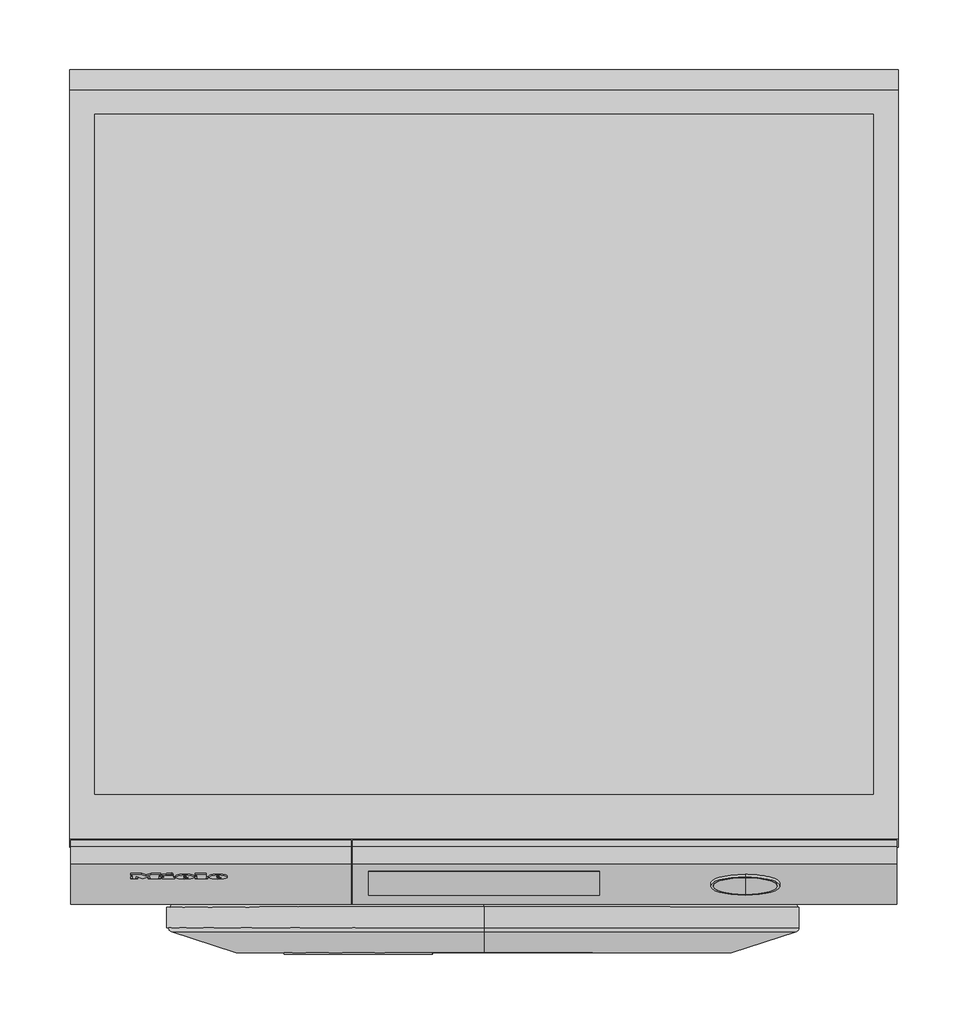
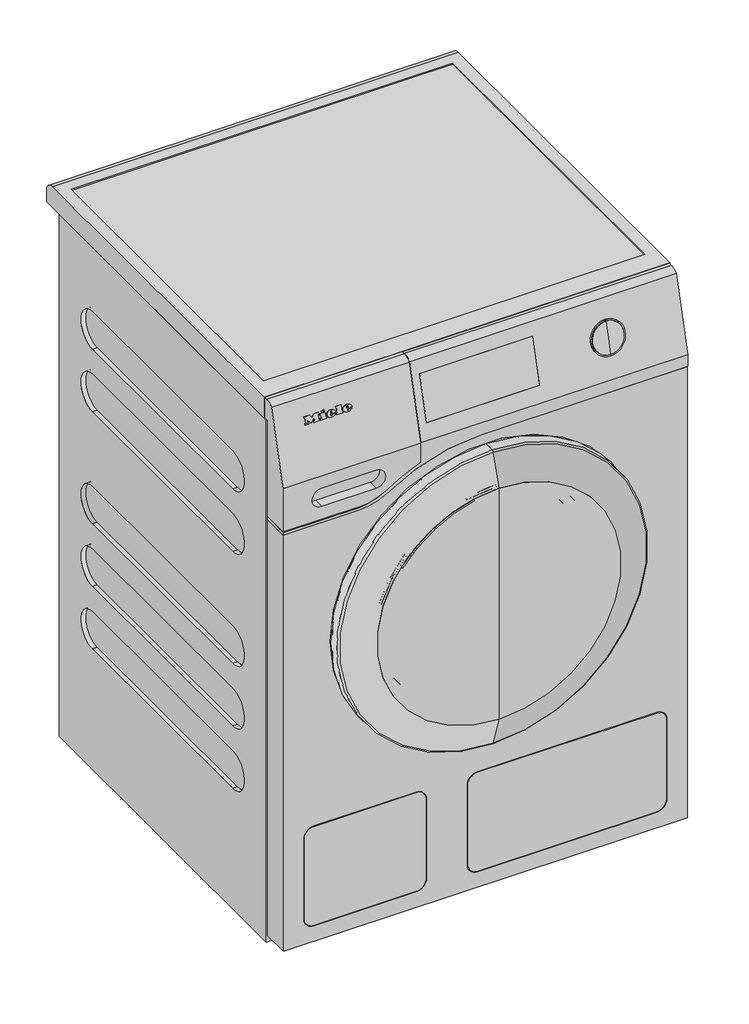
# Not in any storey: 1 proxy.
"""IFC4 building model written with IfcOpenShell, lengths in millimetres."""

from ifc_helpers import new_model, si_unit, origin, place, context, project, spatial, transform, mapped, element, save
from components import specialty_equipment_2ff1fc5d, specialty_equipment_badbdaf0

model = new_model("IFC4")

# Units and contexts
model_context = context("Model", 3, world=origin())
ifc_project = project(units=[si_unit("LENGTHUNIT", "METRE", prefix="MILLI")], contexts=[model_context])

# Site, building
site = spatial("IfcSite", under=ifc_project)
building = spatial("IfcBuilding", under=site)

# Proxy
placement = place(None, origin())
specialty_equipment_shape = specialty_equipment_2ff1fc5d(model_context)
specialty_equipment_2_shape = specialty_equipment_badbdaf0(model_context)
element("IfcBuildingElementProxy", 1, Name="11300070_D_WER875WPS_LW : 11ER8756_D_11300070_WER875WPS_LW", ObjectType="11300070_D_WER875WPS_LW : 11ER8756_D_11300070_WER875WPS_LW", at=placement, inside=building, context=model_context, shape_type="MappedRepresentation", body=[
    mapped(specialty_equipment_shape, transform((0.0, 0.0, 0.0), x_axis=(1.0, 0.0, 0.0), y_axis=(0.0, 1.0, 0.0), z_axis=(0.0, 0.0, 1.0))),
    mapped(specialty_equipment_2_shape, transform((0.0, 0.0, 0.0), x_axis=(1.0, 0.0, 0.0), y_axis=(0.0, 1.0, 0.0), z_axis=(0.0, 0.0, 1.0))),
])

save(model, "model.ifc")
